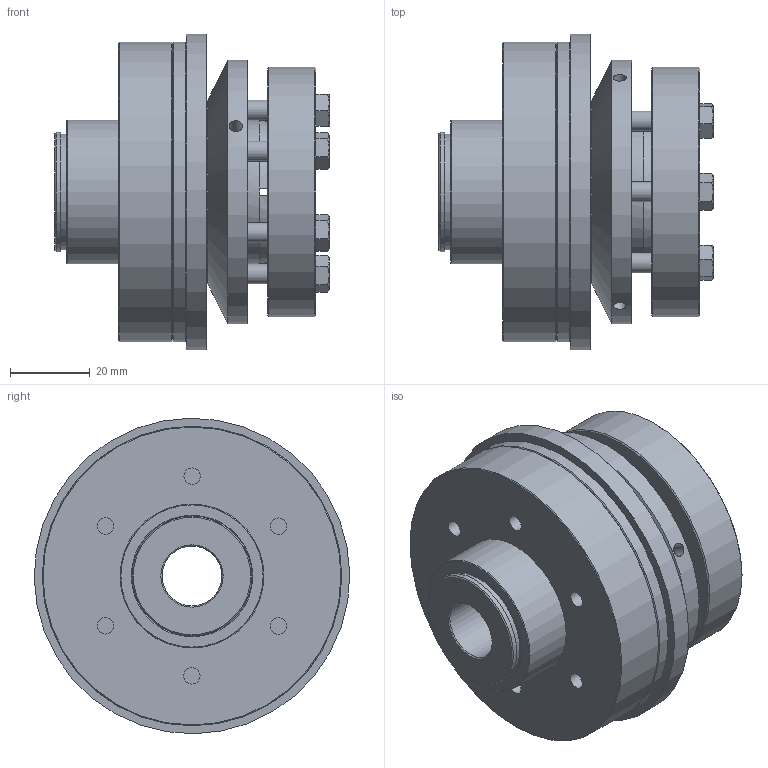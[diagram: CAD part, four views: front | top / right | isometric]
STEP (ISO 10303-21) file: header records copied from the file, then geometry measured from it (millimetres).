
FILE_DESCRIPTION( ( 'Unknown' ), '1' );
FILE_NAME( 'C:/Users/TWalzel/Documents/CAD-Daten/KBK-CA/60/KBK C-A-60.stp', 'Unknown', ( 'Unknown' ), ( 'Unknown' ), 'PSStep 16.0.42', 'Unknown', ' ' );
FILE_SCHEMA( ( 'AUTOMOTIVE_DESIGN { 1 0 10303 214 1 1 1 1 }' ) );
Length unit declared in the file: millimetre
Products named in the file (11): din_en_24017_m5x20; Stellring 60; Druckring L-A-60; Druckring 60; Assem1; Flansch-Gleitlager CK-60; Grundkörper C-A-60_1
Assembly tree (15 placements, depth 3):
  Assem1
    Flansch-Gleitlager CK-60
    Grundkörper C-A-60_1
    Stellring 60
      Stellring 60
    Druckring 60
      Druckring 60
    Druckring L-A-60
      Druckring L-A-60
    din_en_24017_m5x20  x6
      din_en_24017_m5x20
Bounding box: 68.65 x 78.99 x 78.99 mm (x, y, z)
Volume: 170100.1 mm3; surface area: 62577.6 mm2
Topology: 11 solids, 11 shells, 249 faces, 516 edges, 326 vertices
Faces by surface type: plane 111, cone 72, cylinder 58, torus 8
Full cylindrical faces by diameter (mm): 3.242 x3, 4 x3, 4.134 x18, 5 x6, 5.5 x6, 6.88 x6, 15 x1, 29 x1, 30 x3, 35.937 x1, 36 x1, 46 x2, 46.5 x1, 61.3 x1, 62.5 x1, 66 x1, 75 x2, 79 x1
Entity records: 4990 total; most frequent: CARTESIAN_POINT 931, DIRECTION 636, ORIENTED_EDGE 406, AXIS2_PLACEMENT_3D 300, EDGE_LOOP 258, EDGE_CURVE 203, FACE_OUTER_BOUND 190, VERTEX_POINT 167
